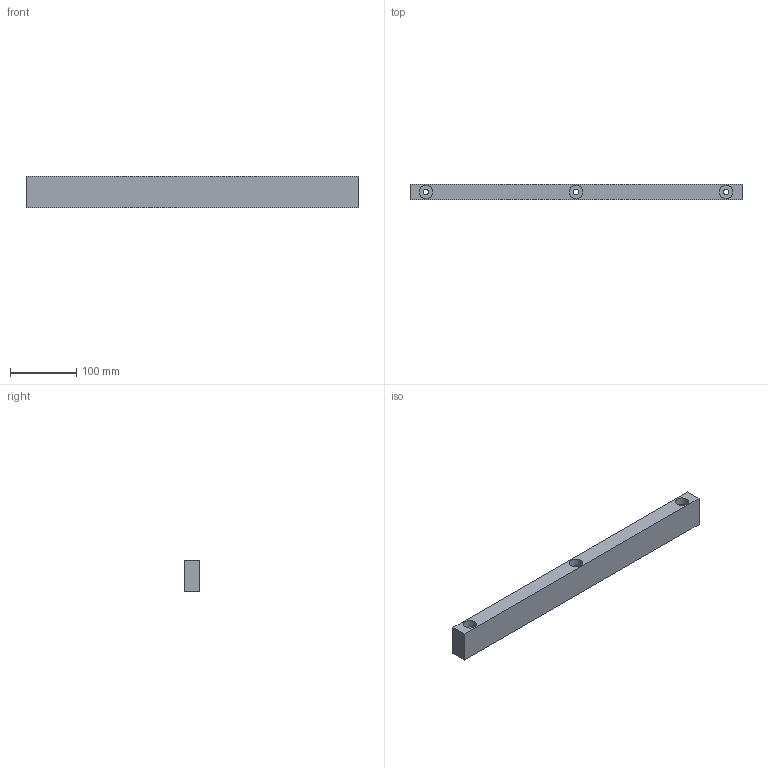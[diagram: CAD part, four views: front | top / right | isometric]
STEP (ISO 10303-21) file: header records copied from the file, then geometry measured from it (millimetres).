
FILE_DESCRIPTION (( 'STEP AP203' ), '1' );
FILE_NAME ('Tasseau_500_Dessous.STEP', '2026-06-24T07:29:48', ( '' ), ( '' ), 'SwSTEP 2.0', 'SolidWorks 2024', '' );
FILE_SCHEMA (( 'CONFIG_CONTROL_DESIGN' ));
Length unit declared in the file: millimetre
Products named in the file (1): Tasseau_500_Dessous
Bounding box: 500 x 24 x 48 mm (x, y, z)
Volume: 555529.4 mm3; surface area: 79657.3 mm2
Topology: 1 solids, 1 shells, 21 faces, 42 edges, 29 vertices
Faces by surface type: plane 12, cylinder 9
Full cylindrical faces by diameter (mm): 8 x3, 14 x3, 20 x3
Entity records: 573 total; most frequent: DIRECTION 92, CARTESIAN_POINT 78, ORIENTED_EDGE 60, EDGE_LOOP 42, AXIS2_PLACEMENT_3D 40, FACE_OUTER_BOUND 30, EDGE_CURVE 30, VERTEX_POINT 26
